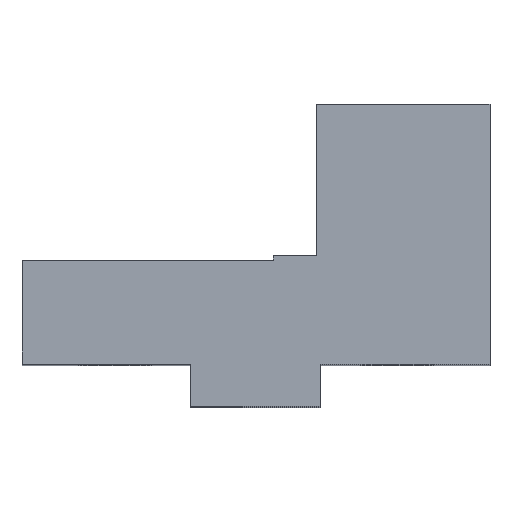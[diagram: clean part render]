
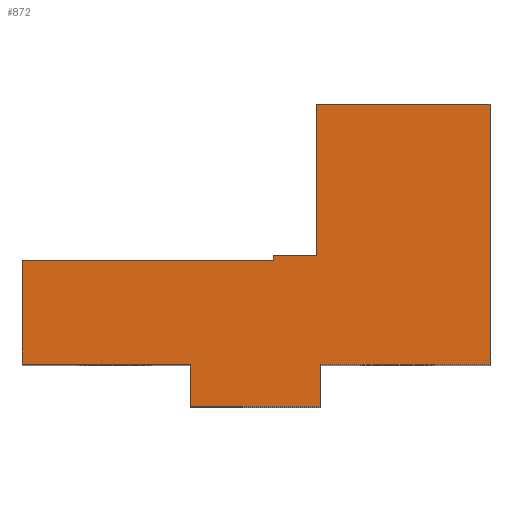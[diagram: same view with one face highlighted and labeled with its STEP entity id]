
A CAD part, top view. The second image highlights one B-rep face of the part: STEP entity #872.
In plain terms, the highlighted planar face has unit normal (0, 0, 1).
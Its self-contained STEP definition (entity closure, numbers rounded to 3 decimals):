
#7 = CARTESIAN_POINT ( 'NONE',  ( 14., 69.75, 100.2 ) ) ;
#25 = CARTESIAN_POINT ( 'NONE',  ( 15., 9.75, 100.2 ) ) ;
#71 = DIRECTION ( 'NONE',  ( 0., -1., 0. ) ) ;
#72 = VECTOR ( 'NONE', #71, 1000. ) ;
#73 = CARTESIAN_POINT ( 'NONE',  ( 14., 69.75, 100.2 ) ) ;
#74 = LINE ( 'NONE', #73, #72 ) ;
#75 = LINE ( 'NONE', #78, #77 ) ;
#76 = DIRECTION ( 'NONE',  ( 1., 0., 0. ) ) ;
#77 = VECTOR ( 'NONE', #76, 1000. ) ;
#78 = CARTESIAN_POINT ( 'NONE',  ( -54., 9.75, 100.2 ) ) ;
#84 = CARTESIAN_POINT ( 'NONE',  ( 14., 34.75, 100.2 ) ) ;
#116 = DIRECTION ( 'NONE',  ( 0., 1., 0. ) ) ;
#117 = VECTOR ( 'NONE', #116, 1000. ) ;
#118 = CARTESIAN_POINT ( 'NONE',  ( 54., 9.75, 100.2 ) ) ;
#122 = LINE ( 'NONE', #118, #117 ) ;
#150 = DIRECTION ( 'NONE',  ( -1., 0., 0. ) ) ;
#151 = VECTOR ( 'NONE', #150, 1000. ) ;
#152 = CARTESIAN_POINT ( 'NONE',  ( 54., 69.75, 100.2 ) ) ;
#158 = LINE ( 'NONE', #152, #151 ) ;
#172 = DIRECTION ( 'NONE',  ( 1., 0., 0. ) ) ;
#173 = DIRECTION ( 'NONE',  ( 0., 0., 1. ) ) ;
#174 = AXIS2_PLACEMENT_3D ( 'NONE', #176, #173, #172 ) ;
#176 = CARTESIAN_POINT ( 'NONE',  ( -54., 0., 100.2 ) ) ;
#177 = PLANE ( 'NONE',  #174 ) ;
#182 = FACE_OUTER_BOUND ( 'NONE', #873, .T. ) ;
#202 = CARTESIAN_POINT ( 'NONE',  ( 54., 9.75, 100.2 ) ) ;
#227 = DIRECTION ( 'NONE',  ( 1., 0., 0. ) ) ;
#228 = VECTOR ( 'NONE', #227, 1000. ) ;
#229 = CARTESIAN_POINT ( 'NONE',  ( 15., 9.75, 100.2 ) ) ;
#230 = LINE ( 'NONE', #229, #228 ) ;
#242 = CARTESIAN_POINT ( 'NONE',  ( 54., 69.75, 100.2 ) ) ;
#287 = CARTESIAN_POINT ( 'NONE',  ( 4., 34.75, 100.2 ) ) ;
#288 = DIRECTION ( 'NONE',  ( -1., 0., 0. ) ) ;
#289 = VECTOR ( 'NONE', #288, 1000. ) ;
#290 = CARTESIAN_POINT ( 'NONE',  ( -54., 33.75, 100.2 ) ) ;
#291 = LINE ( 'NONE', #290, #289 ) ;
#380 = DIRECTION ( 'NONE',  ( 0., -1., 0. ) ) ;
#381 = VECTOR ( 'NONE', #380, 1000. ) ;
#382 = CARTESIAN_POINT ( 'NONE',  ( 4., 33.75, 100.2 ) ) ;
#383 = LINE ( 'NONE', #382, #381 ) ;
#384 = CARTESIAN_POINT ( 'NONE',  ( 4., 33.75, 100.2 ) ) ;
#400 = DIRECTION ( 'NONE',  ( -1., 0., 0. ) ) ;
#401 = VECTOR ( 'NONE', #400, 1000. ) ;
#402 = CARTESIAN_POINT ( 'NONE',  ( 14., 34.75, 100.2 ) ) ;
#403 = LINE ( 'NONE', #402, #401 ) ;
#497 = VERTEX_POINT ( 'NONE', #1105 ) ;
#507 = VERTEX_POINT ( 'NONE', #1086 ) ;
#511 = VERTEX_POINT ( 'NONE', #1081 ) ;
#512 = EDGE_CURVE ( 'NONE', #511, #507, #1080, .T. ) ;
#514 = EDGE_CURVE ( 'NONE', #603, #828, #1076, .T. ) ;
#599 = EDGE_CURVE ( 'NONE', #612, #603, #1187, .T. ) ;
#603 = VERTEX_POINT ( 'NONE', #1179 ) ;
#610 = EDGE_CURVE ( 'NONE', #497, #612, #1167, .T. ) ;
#612 = VERTEX_POINT ( 'NONE', #1163 ) ;
#708 = EDGE_CURVE ( 'NONE', #912, #764, #403, .T. ) ;
#717 = VERTEX_POINT ( 'NONE', #384 ) ;
#719 = EDGE_CURVE ( 'NONE', #764, #717, #383, .T. ) ;
#720 = ORIENTED_EDGE ( 'NONE', *, *, #763, .T. ) ;
#763 = EDGE_CURVE ( 'NONE', #717, #511, #291, .T. ) ;
#764 = VERTEX_POINT ( 'NONE', #287 ) ;
#795 = VERTEX_POINT ( 'NONE', #242 ) ;
#802 = EDGE_CURVE ( 'NONE', #828, #805, #230, .T. ) ;
#805 = VERTEX_POINT ( 'NONE', #202 ) ;
#811 = EDGE_CURVE ( 'NONE', #507, #497, #75, .T. ) ;
#816 = VERTEX_POINT ( 'NONE', #7 ) ;
#828 = VERTEX_POINT ( 'NONE', #25 ) ;
#872 = ADVANCED_FACE ( 'NONE', ( #182 ), #177, .T. ) ;
#873 = EDGE_LOOP ( 'NONE', ( #874, #875, #876, #877, #878, #879, #880, #881, #890, #891, #892, #720 ) ) ;
#874 = ORIENTED_EDGE ( 'NONE', *, *, #512, .T. ) ;
#875 = ORIENTED_EDGE ( 'NONE', *, *, #811, .T. ) ;
#876 = ORIENTED_EDGE ( 'NONE', *, *, #610, .T. ) ;
#877 = ORIENTED_EDGE ( 'NONE', *, *, #599, .T. ) ;
#878 = ORIENTED_EDGE ( 'NONE', *, *, #514, .T. ) ;
#879 = ORIENTED_EDGE ( 'NONE', *, *, #802, .T. ) ;
#880 = ORIENTED_EDGE ( 'NONE', *, *, #944, .T. ) ;
#881 = ORIENTED_EDGE ( 'NONE', *, *, #924, .T. ) ;
#890 = ORIENTED_EDGE ( 'NONE', *, *, #916, .T. ) ;
#891 = ORIENTED_EDGE ( 'NONE', *, *, #708, .T. ) ;
#892 = ORIENTED_EDGE ( 'NONE', *, *, #719, .T. ) ;
#912 = VERTEX_POINT ( 'NONE', #84 ) ;
#916 = EDGE_CURVE ( 'NONE', #816, #912, #74, .T. ) ;
#924 = EDGE_CURVE ( 'NONE', #795, #816, #158, .T. ) ;
#944 = EDGE_CURVE ( 'NONE', #805, #795, #122, .T. ) ;
#1073 = DIRECTION ( 'NONE',  ( 0., 1., 0. ) ) ;
#1074 = VECTOR ( 'NONE', #1073, 1000. ) ;
#1075 = CARTESIAN_POINT ( 'NONE',  ( 15., 0., 100.2 ) ) ;
#1076 = LINE ( 'NONE', #1075, #1074 ) ;
#1077 = DIRECTION ( 'NONE',  ( 0., -1., 0. ) ) ;
#1078 = VECTOR ( 'NONE', #1077, 1000. ) ;
#1079 = CARTESIAN_POINT ( 'NONE',  ( -54., 33.75, 100.2 ) ) ;
#1080 = LINE ( 'NONE', #1079, #1078 ) ;
#1081 = CARTESIAN_POINT ( 'NONE',  ( -54., 33.75, 100.2 ) ) ;
#1086 = CARTESIAN_POINT ( 'NONE',  ( -54., 9.75, 100.2 ) ) ;
#1105 = CARTESIAN_POINT ( 'NONE',  ( -15., 9.75, 100.2 ) ) ;
#1163 = CARTESIAN_POINT ( 'NONE',  ( -15., 0., 100.2 ) ) ;
#1164 = DIRECTION ( 'NONE',  ( 0., -1., 0. ) ) ;
#1165 = VECTOR ( 'NONE', #1164, 1000. ) ;
#1166 = CARTESIAN_POINT ( 'NONE',  ( -15., 9.75, 100.2 ) ) ;
#1167 = LINE ( 'NONE', #1166, #1165 ) ;
#1179 = CARTESIAN_POINT ( 'NONE',  ( 15., 0., 100.2 ) ) ;
#1184 = DIRECTION ( 'NONE',  ( 1., 0., 0. ) ) ;
#1185 = VECTOR ( 'NONE', #1184, 1000. ) ;
#1186 = CARTESIAN_POINT ( 'NONE',  ( -15., 0., 100.2 ) ) ;
#1187 = LINE ( 'NONE', #1186, #1185 ) ;
